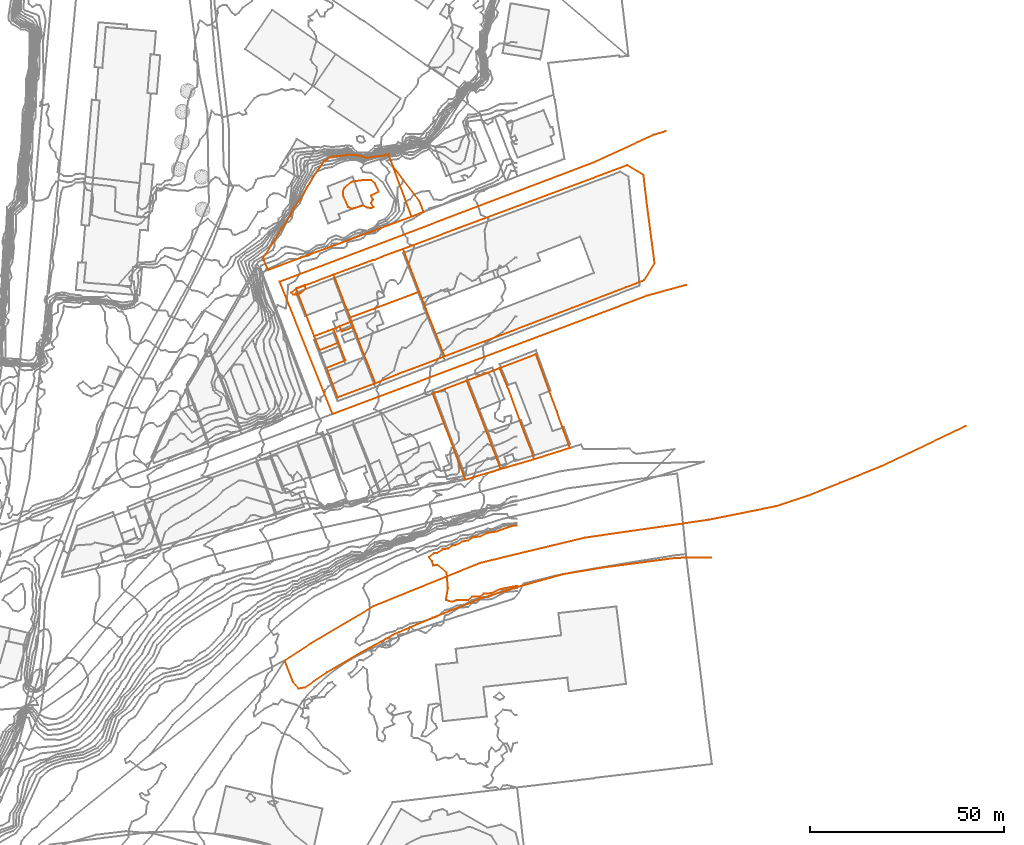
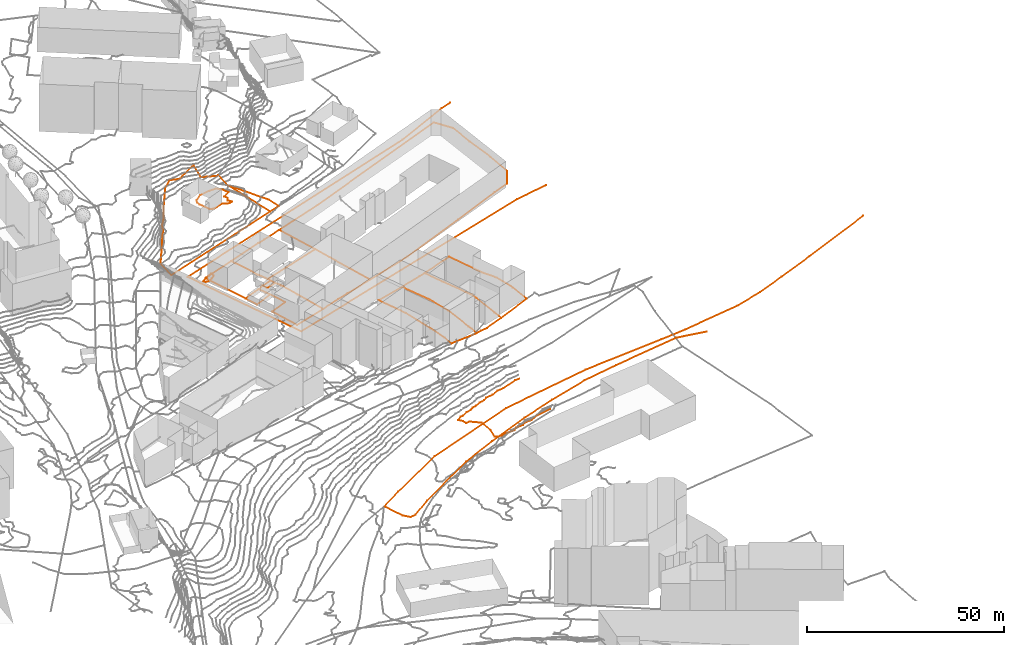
# Not in any storey, part 279 of 419: 19 proxies.
"""IFC2X3 model written with IfcOpenShell, lengths in metres."""

from ifc_helpers import new_model, entity, si_unit, frame, origin_with_axes, place, context, subcontext, project, element, save


model = new_model("IFC2X3")

# Units and contexts
model_context = context("Model", 3, precision=1e-05, world=origin_with_axes())
body_context = subcontext(model_context, "Body", "Model", "MODEL_VIEW")
ifc_project = project(units=[si_unit("AREAUNIT", "SQUARE_METRE"), si_unit("LENGTHUNIT", "METRE")], contexts=[model_context])

# Proxies
proxy_1_placement = place(None, frame((929.1920204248, 676.6976909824, 81.8), z_axis=(0.0, 0.0, 1.0), x_axis=(1.0, 0.0, 0.0)))
element("IfcBuildingElementProxy", 1, at=proxy_1_placement, Name="Route 133", ObjectType="NOTDEFINED", context=body_context, shape_type="GeometricCurveSet", body=[
    entity("IfcGeometricCurveSet", [entity("IfcPolyline", [entity("IfcCartesianPoint", [0.0, 0.0, 0.0]), entity("IfcCartesianPoint", [80.8, 30.4000000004, -5.8]), entity("IfcCartesianPoint", [90.9, 33.2000000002, -6.7])])]),
])
proxy_2_placement = place(None, frame((916.8920204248, 613.2976909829, 70.4), z_axis=(0.0, 0.0, 1.0), x_axis=(1.0, 0.0, 0.0)))
element("IfcBuildingElementProxy", 2, at=proxy_2_placement, Name="Route 273", ObjectType="NOTDEFINED", context=body_context, shape_type="GeometricCurveSet", body=[
    entity("IfcGeometricCurveSet", [entity("IfcPolyline", [entity("IfcCartesianPoint", [0.0, 0.0, 0.0]), entity("IfcCartesianPoint", [2.2, -5.6000000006, -0.2]), entity("IfcCartesianPoint", [3.6, -7.2000000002, -0.2]), entity("IfcCartesianPoint", [5.2, -6.9000000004, -0.2]), entity("IfcCartesianPoint", [10.8999999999, -3.0, -0.2]), entity("IfcCartesianPoint", [19.6, 2.0999999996, -0.2]), entity("IfcCartesianPoint", [27.7999999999, 6.5999999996, 0.1]), entity("IfcCartesianPoint", [38.0, 11.0, 0.2]), entity("IfcCartesianPoint", [50.2999999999, 15.8999999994, 0.2]), entity("IfcCartesianPoint", [60.2, 19.0, 0.4]), entity("IfcCartesianPoint", [71.6, 22.1999999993, 0.5]), entity("IfcCartesianPoint", [81.7, 23.8999999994, 0.6]), entity("IfcCartesianPoint", [100.7, 26.3999999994, 0.9]), entity("IfcCartesianPoint", [109.7, 26.5, -0.4])])]),
])
proxy_3_placement = place(None, frame((916.8920204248, 613.2976909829, 70.4), z_axis=(0.0, 0.0, 1.0), x_axis=(1.0, 0.0, 0.0)))
element("IfcBuildingElementProxy", 3, at=proxy_3_placement, Name="Route 301", ObjectType="NOTDEFINED", context=body_context, shape_type="GeometricCurveSet", body=[
    entity("IfcGeometricCurveSet", [entity("IfcPolyline", [entity("IfcCartesianPoint", [0.0, 0.0, 0.0]), entity("IfcCartesianPoint", [6.7, 4.3999999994, -0.5]), entity("IfcCartesianPoint", [22.8999999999, 14.0, -1.0]), entity("IfcCartesianPoint", [50.2, 25.0999999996, -2.4]), entity("IfcCartesianPoint", [77.2, 31.5999999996, -3.9]), entity("IfcCartesianPoint", [101.5, 35.0999999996, -5.1]), entity("IfcCartesianPoint", [109.0, 36.1999999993, -5.4]), entity("IfcCartesianPoint", [126.3999999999, 39.6999999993, -6.2]), entity("IfcCartesianPoint", [134.6, 42.3999999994, -6.5]), entity("IfcCartesianPoint", [142.7999999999, 45.6999999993, -6.6]), entity("IfcCartesianPoint", [153.5, 50.0, -6.6]), entity("IfcCartesianPoint", [175.1, 60.2999999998, -7.9])])]),
])
proxy_4_placement = place(None, frame((915.5920204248, 710.6976909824, 82.8), z_axis=(0.0, 0.0, 1.0), x_axis=(1.0, 0.0, 0.0)))
element("IfcBuildingElementProxy", 4, at=proxy_4_placement, Name="Route 310", ObjectType="NOTDEFINED", context=body_context, shape_type="GeometricCurveSet", body=[
    entity("IfcGeometricCurveSet", [entity("IfcPolyline", [entity("IfcCartesianPoint", [13.6, -34.0, -1.0]), entity("IfcCartesianPoint", [0.0, 0.0, 0.0]), entity("IfcCartesianPoint", [80.7, 30.7000000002, -4.4]), entity("IfcCartesianPoint", [96.2, 37.7999999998, -4.4]), entity("IfcCartesianPoint", [99.2, 38.7000000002, -4.3])])]),
])
proxy_5_placement = place(None, frame((954.9720204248, 681.9376909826, 79.1991138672), z_axis=(0.0, 0.0, 1.0), x_axis=(1.0, 0.0, 0.0)))
element("IfcBuildingElementProxy", 5, at=proxy_5_placement, Name="Cadastre 3", ObjectType="NOTDEFINED", context=body_context, shape_type="GeometricCurveSet", body=[
    entity("IfcGeometricCurveSet", [entity("IfcPolyline", [entity("IfcCartesianPoint", [8.4, -22.1399999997, -2.8841154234]), entity("IfcCartesianPoint", [7.65, -20.21, -1.996502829]), entity("IfcCartesianPoint", [6.03, -15.8799999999, -1.1645456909]), entity("IfcCartesianPoint", [3.21, -8.4299999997, -0.0244128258]), entity("IfcCartesianPoint", [0.0, 0.0, 0.0]), entity("IfcCartesianPoint", [8.71, 3.3100000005, -0.8916567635]), entity("IfcCartesianPoint", [11.97, -5.0199999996, -0.8931925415]), entity("IfcCartesianPoint", [14.21, -10.79, -1.652414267]), entity("IfcCartesianPoint", [16.5600000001, -17.0, -3.6415137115]), entity("IfcCartesianPoint", [16.9, -17.7599999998, -3.9305306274]), entity("IfcCartesianPoint", [17.4, -19.4100000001, -4.5214151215]), entity("IfcCartesianPoint", [8.4, -22.1399999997, -2.8841154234])])]),
])
proxy_6_placement = place(None, frame((963.6820204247, 685.2476909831, 78.3074571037), z_axis=(0.0, 0.0, 1.0), x_axis=(1.0, 0.0, 0.0)))
element("IfcBuildingElementProxy", 6, at=proxy_6_placement, Name="Cadastre 4", ObjectType="NOTDEFINED", context=body_context, shape_type="GeometricCurveSet", body=[
    entity("IfcGeometricCurveSet", [entity("IfcPolyline", [entity("IfcCartesianPoint", [17.38, -20.1800000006, -3.4330536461]), entity("IfcCartesianPoint", [12.37, -21.6400000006, -3.9002592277]), entity("IfcCartesianPoint", [10.3300000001, -22.2400000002, -3.7142059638]), entity("IfcCartesianPoint", [8.6900000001, -22.7200000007, -3.629758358]), entity("IfcCartesianPoint", [8.1900000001, -21.0700000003, -3.0388738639]), entity("IfcCartesianPoint", [7.8500000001, -20.3100000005, -2.749856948]), entity("IfcCartesianPoint", [5.5, -14.1000000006, -0.7607575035]), entity("IfcCartesianPoint", [3.26, -8.3300000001, -0.001535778]), entity("IfcCartesianPoint", [0.0, 0.0, 0.0]), entity("IfcCartesianPoint", [6.5700000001, 2.4899999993, -0.522307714]), entity("IfcCartesianPoint", [8.4700000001, 3.25, -0.6774192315]), entity("IfcCartesianPoint", [10.7200000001, -2.0800000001, -0.8817682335]), entity("IfcCartesianPoint", [14.01, -11.1100000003, -0.6126592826]), entity("IfcCartesianPoint", [14.5800000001, -12.7200000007, -0.931955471]), entity("IfcCartesianPoint", [16.6900000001, -18.1300000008, -2.787056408]), entity("IfcCartesianPoint", [17.38, -20.1800000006, -3.4330536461])])]),
])
proxy_7_placement = place(None, frame((972.1520204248, 688.4976909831, 77.6300378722), z_axis=(0.0, 0.0, 1.0), x_axis=(1.0, 0.0, 0.0)))
element("IfcBuildingElementProxy", 7, at=proxy_7_placement, Name="Cadastre 6", ObjectType="NOTDEFINED", context=body_context, shape_type="GeometricCurveSet", body=[
    entity("IfcGeometricCurveSet", [entity("IfcPolyline", [entity("IfcCartesianPoint", [18.09, -20.5100000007, -1.8194394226]), entity("IfcCartesianPoint", [8.9099999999, -23.4300000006, -2.7556344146]), entity("IfcCartesianPoint", [8.22, -21.3800000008, -2.1096371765]), entity("IfcCartesianPoint", [6.11, -15.9700000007, -0.2545362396]), entity("IfcCartesianPoint", [5.5399999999, -14.3600000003, 0.0647599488]), entity("IfcCartesianPoint", [2.25, -5.3300000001, -0.204349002]), entity("IfcCartesianPoint", [0.0, 0.0, 0.0]), entity("IfcCartesianPoint", [9.3099999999, 3.5599999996, -0.3530372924]), entity("IfcCartesianPoint", [13.1, -6.8000000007, -0.3470384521]), entity("IfcCartesianPoint", [14.74, -11.1500000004, 0.1789598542]), entity("IfcCartesianPoint", [16.49, -16.2400000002, -0.3476365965]), entity("IfcCartesianPoint", [18.09, -20.5100000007, -1.8194394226])])]),
])
proxy_8_placement = place(None, frame((947.3420204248, 719.1376909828, 81.1068002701), z_axis=(0.0, 0.0, 1.0), x_axis=(1.0, 0.0, 0.0)))
element("IfcBuildingElementProxy", 8, at=proxy_8_placement, Name="Cadastre 7", ObjectType="NOTDEFINED", context=body_context, shape_type="GeometricCurveSet", body=[
    entity("IfcGeometricCurveSet", [entity("IfcPolyline", [entity("IfcCartesianPoint", [0.0, 0.0, 0.0]), entity("IfcCartesianPoint", [14.29, 5.3899999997, -0.5697215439]), entity("IfcCartesianPoint", [57.63, 21.5300000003, 0.0131982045]), entity("IfcCartesianPoint", [61.8200000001, 19.0, -1.6587994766]), entity("IfcCartesianPoint", [62.63, 11.8999999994, -1.8183981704]), entity("IfcCartesianPoint", [63.77, 3.1899999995, -1.7568017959]), entity("IfcCartesianPoint", [64.66, -3.5899999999, -2.2632989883]), entity("IfcCartesianPoint", [61.98, -8.0600000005, -2.410001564]), entity("IfcCartesianPoint", [57.3200000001, -9.8399999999, -2.44379673]), entity("IfcCartesianPoint", [43.6, -15.1200000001, -2.8699991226]), entity("IfcCartesianPoint", [24.75, -22.2999999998, -3.3528001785]), entity("IfcCartesianPoint", [10.71, -27.6100000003, -2.3924168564]), entity("IfcCartesianPoint", [5.84, -15.2999999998, -1.22361913]), entity("IfcCartesianPoint", [4.1800000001, -10.9699999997, -0.7866741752]), entity("IfcCartesianPoint", [0.0, 0.0, 0.0])])]),
])
proxy_9_placement = place(None, frame((944.7020204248, 740.4676909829, 82.8352164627), z_axis=(0.0, 0.0, 1.0), x_axis=(1.0, 0.0, 0.0)))
element("IfcBuildingElementProxy", 9, at=proxy_9_placement, Name="Cadastre 12", ObjectType="NOTDEFINED", context=body_context, shape_type="GeometricCurveSet", body=[
    entity("IfcGeometricCurveSet", [entity("IfcPolyline", [entity("IfcCartesianPoint", [0.0, 0.0, 0.0]), entity("IfcCartesianPoint", [6.75, -8.8399999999, -1.3903288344]), entity("IfcCartesianPoint", [7.91, -11.8100000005, -1.9650757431]), entity("IfcCartesianPoint", [4.8, -13.0099999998, -1.8274100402]), entity("IfcCartesianPoint", [0.0, 0.0, 0.0])])]),
])
proxy_10_placement = place(None, frame((911.2520204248, 716.8576909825, 84.8999478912), z_axis=(0.0, 0.0, 1.0), x_axis=(1.0, 0.0, 0.0)))
element("IfcBuildingElementProxy", 10, at=proxy_10_placement, Name="Cadastre 14", ObjectType="NOTDEFINED", context=body_context, shape_type="GeometricCurveSet", body=[
    entity("IfcGeometricCurveSet", [entity("IfcPolyline", [entity("IfcCartesianPoint", [32.3099999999, 26.6900000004, -0.2363954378]), entity("IfcCartesianPoint", [33.45, 23.6100000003, -2.0647314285]), entity("IfcCartesianPoint", [38.25, 10.6000000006, -3.8921414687]), entity("IfcCartesianPoint", [1.39, -3.1099999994, -2.3876718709]), entity("IfcCartesianPoint", [0.0, 0.0, 0.0]), entity("IfcCartesianPoint", [0.67, 0.9100000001, 0.4750005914]), entity("IfcCartesianPoint", [2.53, 3.75, 1.0861271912]), entity("IfcCartesianPoint", [4.85, 7.46, 1.0187405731]), entity("IfcCartesianPoint", [6.96, 10.71, 1.2159590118]), entity("IfcCartesianPoint", [7.9299999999, 12.8399999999, 1.1809325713]), entity("IfcCartesianPoint", [9.3199999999, 14.6600000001, 0.8960285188]), entity("IfcCartesianPoint", [11.3199999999, 18.0600000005, 0.8738754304]), entity("IfcCartesianPoint", [14.14, 22.6100000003, 1.0116130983]), entity("IfcCartesianPoint", [14.79, 23.3900000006, 1.220702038]), entity("IfcCartesianPoint", [15.62, 24.7800000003, 2.488788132]), entity("IfcCartesianPoint", [17.6899999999, 26.0099999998, 3.6207767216]), entity("IfcCartesianPoint", [19.38, 26.1500000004, 3.189064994]), entity("IfcCartesianPoint", [20.98, 26.3399999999, 2.7162121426]), entity("IfcCartesianPoint", [21.75, 26.5300000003, 3.2830872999]), entity("IfcCartesianPoint", [24.9399999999, 26.2999999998, 5.6435740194]), entity("IfcCartesianPoint", [26.65, 25.71, 1.5954165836]), entity("IfcCartesianPoint", [31.64, 26.4000000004, -0.1541902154]), entity("IfcCartesianPoint", [32.3099999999, 26.6900000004, -0.2363954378])])]),
])
proxy_11_placement = place(None, frame((933.7520204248, 701.4976909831, 81.3912408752), z_axis=(0.0, 0.0, 1.0), x_axis=(1.0, 0.0, 0.0)))
element("IfcBuildingElementProxy", 11, at=proxy_11_placement, Name="Cadastre 15", ObjectType="NOTDEFINED", context=body_context, shape_type="GeometricCurveSet", body=[
    entity("IfcGeometricCurveSet", [entity("IfcPolyline", [entity("IfcCartesianPoint", [17.77, 6.6699999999, -1.0711147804]), entity("IfcCartesianPoint", [19.4299999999, 2.3399999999, -1.5080597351]), entity("IfcCartesianPoint", [24.2999999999, -9.9700000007, -2.6768574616]), entity("IfcCartesianPoint", [15.74, -13.2300000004, -1.9456891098]), entity("IfcCartesianPoint", [12.23, -14.5200000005, -1.7068809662]), entity("IfcCartesianPoint", [6.46, -16.8700000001, -1.3459144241]), entity("IfcCartesianPoint", [3.4299999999, -9.2100000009, -0.4163885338]), entity("IfcCartesianPoint", [1.75, -4.7200000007, -0.0053234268]), entity("IfcCartesianPoint", [1.5699999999, -4.2200000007, 0.0186073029]), entity("IfcCartesianPoint", [0.8099999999, -2.4200000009, -0.0785488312]), entity("IfcCartesianPoint", [0.3099999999, -1.0100000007, -0.0237164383]), entity("IfcCartesianPoint", [0.0, 0.0, 0.0]), entity("IfcCartesianPoint", [7.3099999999, 2.7199999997, -0.4797083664]), entity("IfcCartesianPoint", [17.77, 6.6699999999, -1.0711147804])])]),
])
proxy_12_placement = place(None, frame((929.4720204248, 712.5476909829, 81.6937399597), z_axis=(0.0, 0.0, 1.0), x_axis=(1.0, 0.0, 0.0)))
element("IfcBuildingElementProxy", 12, at=proxy_12_placement, Name="Cadastre 16", ObjectType="NOTDEFINED", context=body_context, shape_type="GeometricCurveSet", body=[
    entity("IfcGeometricCurveSet", [entity("IfcPolyline", [entity("IfcCartesianPoint", [17.87, 6.5899999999, -0.5869396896]), entity("IfcCartesianPoint", [22.05, -4.3799999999, -1.3736138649]), entity("IfcCartesianPoint", [11.59, -8.3300000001, -0.7822074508]), entity("IfcCartesianPoint", [4.28, -11.0499999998, -0.3024990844]), entity("IfcCartesianPoint", [3.26, -8.3900000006, -0.3411408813]), entity("IfcCartesianPoint", [2.99, -7.9900000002, -0.3308409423]), entity("IfcCartesianPoint", [2.3100000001, -6.0, -0.2088564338]), entity("IfcCartesianPoint", [0.0, 0.0, 0.0]), entity("IfcCartesianPoint", [10.0, 3.71, -0.177307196]), entity("IfcCartesianPoint", [10.53, 3.7799999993, -0.2597235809]), entity("IfcCartesianPoint", [12.27, 4.5599999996, -0.3824399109]), entity("IfcCartesianPoint", [17.87, 6.5899999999, -0.5869396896])])]),
])
proxy_13_placement = place(None, frame((930.9920204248, 699.2976909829, 81.5523997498), z_axis=(0.0, 0.0, 1.0), x_axis=(1.0, 0.0, 0.0)))
element("IfcBuildingElementProxy", 13, at=proxy_13_placement, Name="Cadastre 17", ObjectType="NOTDEFINED", context=body_context, shape_type="GeometricCurveSet", body=[
    entity("IfcGeometricCurveSet", [entity("IfcPolyline", [entity("IfcCartesianPoint", [3.0699999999, 1.1899999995, -0.1848753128]), entity("IfcCartesianPoint", [3.5699999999, -0.2200000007, -0.2397077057]), entity("IfcCartesianPoint", [0.58, -1.4000000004, -0.0573007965]), entity("IfcCartesianPoint", [0.0, 0.0, 0.0]), entity("IfcCartesianPoint", [3.0699999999, 1.1899999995, -0.1848753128])])]),
])
proxy_14_placement = place(None, frame((927.6120204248, 688.5676909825, 81.2638315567), z_axis=(0.0, 0.0, 1.0), x_axis=(1.0, 0.0, 0.0)))
element("IfcBuildingElementProxy", 14, at=proxy_14_placement, Name="Cadastre 18", ObjectType="NOTDEFINED", context=body_context, shape_type="GeometricCurveSet", body=[
    entity("IfcGeometricCurveSet", [entity("IfcPolyline", [entity("IfcCartesianPoint", [6.95, 10.5099999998, 0.0488604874]), entity("IfcCartesianPoint", [7.71, 8.71, 0.1460166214]), entity("IfcCartesianPoint", [7.89, 8.21, 0.1220858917]), entity("IfcCartesianPoint", [9.5699999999, 3.7199999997, -0.2889792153]), entity("IfcCartesianPoint", [12.6, -3.9399999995, -1.2185051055]), entity("IfcCartesianPoint", [2.91, -7.5899999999, -0.5376387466]), entity("IfcCartesianPoint", [0.0, 0.0, 0.0]), entity("IfcCartesianPoint", [4.88, 1.9400000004, 0.0587464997]), entity("IfcCartesianPoint", [3.17, 6.5099999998, 0.2359858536]), entity("IfcCartesianPoint", [2.64, 7.9500000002, 0.2105837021]), entity("IfcCartesianPoint", [1.8100000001, 10.0099999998, 0.2166203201]), entity("IfcCartesianPoint", [2.77, 10.3500000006, 0.2845375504]), entity("IfcCartesianPoint", [3.38, 10.7300000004, 0.2885681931]), entity("IfcCartesianPoint", [3.96, 9.3300000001, 0.2312673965]), entity("IfcCartesianPoint", [6.95, 10.5099999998, 0.0488604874])])]),
])
proxy_15_placement = place(None, frame((924.4820204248, 696.7076909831, 81.4817082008), z_axis=(0.0, 0.0, 1.0), x_axis=(1.0, 0.0, 0.0)))
element("IfcBuildingElementProxy", 15, at=proxy_15_placement, Name="Cadastre 37", ObjectType="NOTDEFINED", context=body_context, shape_type="GeometricCurveSet", body=[
    entity("IfcGeometricCurveSet", [entity("IfcPolyline", [entity("IfcCartesianPoint", [6.3, -1.6300000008, 0.0181092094]), entity("IfcCartesianPoint", [1.38, -3.5900000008, -0.1319395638]), entity("IfcCartesianPoint", [0.0, 0.0, 0.0]), entity("IfcCartesianPoint", [3.6800000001, 1.4099999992, 0.0391766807]), entity("IfcCartesianPoint", [4.9400000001, 1.8699999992, -0.001256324]), entity("IfcCartesianPoint", [5.77, -0.1900000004, -0.0072929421]), entity("IfcCartesianPoint", [6.3, -1.6300000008, 0.0181092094])])]),
])
proxy_16_placement = place(None, frame((919.8220204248, 708.9076909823, 82.0151453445), z_axis=(0.0, 0.0, 1.0), x_axis=(1.0, 0.0, 0.0)))
element("IfcBuildingElementProxy", 16, at=proxy_16_placement, Name="Cadastre 39", ObjectType="NOTDEFINED", context=body_context, shape_type="GeometricCurveSet", body=[
    entity("IfcGeometricCurveSet", [entity("IfcPolyline", [entity("IfcCartesianPoint", [13.9300000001, -7.4099999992, -0.6239044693]), entity("IfcCartesianPoint", [14.24, -8.4199999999, -0.6476209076]), entity("IfcCartesianPoint", [11.17, -9.6099999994, -0.4627455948]), entity("IfcCartesianPoint", [10.5600000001, -9.9899999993, -0.4667762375]), entity("IfcCartesianPoint", [9.6000000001, -10.3300000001, -0.5346934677]), entity("IfcCartesianPoint", [8.3400000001, -10.79, -0.494260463]), entity("IfcCartesianPoint", [4.66, -12.1999999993, -0.5334371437]), entity("IfcCartesianPoint", [2.3200000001, -6.0199999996, -0.2729288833]), entity("IfcCartesianPoint", [0.0, 0.0, 0.0]), entity("IfcCartesianPoint", [9.65, 3.6400000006, -0.3214053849]), entity("IfcCartesianPoint", [11.9600000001, -2.3599999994, -0.5302618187]), entity("IfcCartesianPoint", [12.64, -4.3499999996, -0.6522463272]), entity("IfcCartesianPoint", [12.91, -4.75, -0.6625462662]), entity("IfcCartesianPoint", [13.9300000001, -7.4099999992, -0.6239044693])])]),
])
proxy_17_placement = place(None, frame((931.8420442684, 733.8976909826, 86.0), z_axis=(0.0, 0.0, 1.0), x_axis=(1.0, 0.0, 0.0)))
element("IfcBuildingElementProxy", 17, at=proxy_17_placement, Name="Contour 86.0 m", ObjectType="NOTDEFINED", context=body_context, shape_type="GeometricCurveSet", body=[
    entity("IfcGeometricCurveSet", [entity("IfcPolyline", [entity("IfcCartesianPoint", [7.9165580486, -4.0, 0.0]), entity("IfcCartesianPoint", [7.2499761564, -4.2499761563, 0.0]), entity("IfcCartesianPoint", [6.2499761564, -4.1363573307, 0.0]), entity("IfcCartesianPoint", [5.2499761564, -3.5789431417, 0.0]), entity("IfcCartesianPoint", [2.2499761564, -4.4117673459, 0.0]), entity("IfcCartesianPoint", [1.3749999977, -4.0, 0.0]), entity("IfcCartesianPoint", [0.0832882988, -1.0, 0.0]), entity("IfcCartesianPoint", [0.0, 0.0, 0.0]), entity("IfcCartesianPoint", [0.3928644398, 1.0, 0.0]), entity("IfcCartesianPoint", [2.2499761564, 2.5000124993, 0.0]), entity("IfcCartesianPoint", [5.2498761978, 3.0, 0.0]), entity("IfcCartesianPoint", [7.2499761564, 3.0000066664, 0.0]), entity("IfcCartesianPoint", [8.2499961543, 2.0, 0.0]), entity("IfcCartesianPoint", [9.249985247, 0.0, 0.0]), entity("IfcCartesianPoint", [7.2500261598, -1.0, 0.0]), entity("IfcCartesianPoint", [7.7500261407, -2.0, 0.0]), entity("IfcCartesianPoint", [7.250076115, -3.0, 0.0]), entity("IfcCartesianPoint", [7.9165580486, -4.0, 0.0])])]),
])
proxy_18_placement = place(None, frame((918.5920079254, 707.8976909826, 82.0), z_axis=(0.0, 0.0, 1.0), x_axis=(1.0, 0.0, 0.0)))
element("IfcBuildingElementProxy", 18, at=proxy_18_placement, Name="Contour 82.0 m", ObjectType="NOTDEFINED", context=body_context, shape_type="GeometricCurveSet", body=[
    entity("IfcGeometricCurveSet", [entity("IfcPolyline", [entity("IfcCartesianPoint", [2.5000374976, 0.0, 0.0]), entity("IfcCartesianPoint", [1.5000124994, -0.5000499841, 0.0]), entity("IfcCartesianPoint", [0.5000124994, -0.4444350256, 0.0]), entity("IfcCartesianPoint", [0.0, 0.0, 0.0]), entity("IfcCartesianPoint", [1.5000124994, 1.2221939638, 0.0]), entity("IfcCartesianPoint", [3.5000324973, 2.0, 0.0]), entity("IfcCartesianPoint", [3.6429007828, 1.0, 0.0]), entity("IfcCartesianPoint", [2.5000374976, 0.0, 0.0])])]),
])
proxy_19_placement = place(None, frame((953.9669965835, 639.8976909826, 68.0), z_axis=(0.0, 0.0, 1.0), x_axis=(1.0, 0.0, 0.0)))
element("IfcBuildingElementProxy", 19, at=proxy_19_placement, Name="Contour 68.0 m", ObjectType="NOTDEFINED", context=body_context, shape_type="GeometricCurveSet", body=[
    entity("IfcGeometricCurveSet", [entity("IfcPolyline", [entity("IfcCartesianPoint", [22.6250238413, 8.1269359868, 0.0]), entity("IfcCartesianPoint", [21.3365617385, 8.0, 0.0]), entity("IfcCartesianPoint", [17.1250238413, 6.5301200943, 0.0]), entity("IfcCartesianPoint", [15.1250238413, 6.2383188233, 0.0]), entity("IfcCartesianPoint", [13.1250238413, 5.3414620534, 0.0]), entity("IfcCartesianPoint", [11.1250262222, 5.0, 0.0]), entity("IfcCartesianPoint", [10.1250238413, 4.3046347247, 0.0]), entity("IfcCartesianPoint", [8.5505550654, 4.0, 0.0]), entity("IfcCartesianPoint", [7.1250238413, 3.1857156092, 0.0]), entity("IfcCartesianPoint", [5.9608433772, 3.0, 0.0]), entity("IfcCartesianPoint", [5.1250238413, 2.2727272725, 0.0]), entity("IfcCartesianPoint", [3.5795598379, 2.0, 0.0]), entity("IfcCartesianPoint", [2.1250238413, 1.0967710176, 0.0]), entity("IfcCartesianPoint", [1.306823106, 1.0, 0.0]), entity("IfcCartesianPoint", [0.0, 0.0, 0.0]), entity("IfcCartesianPoint", [0.7916057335, -1.0, 0.0]), entity("IfcCartesianPoint", [1.1250238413, -2.1666878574, 0.0]), entity("IfcCartesianPoint", [2.1250238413, -1.9999750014, 0.0]), entity("IfcCartesianPoint", [4.5694588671, -4.0, 0.0]), entity("IfcCartesianPoint", [4.8749761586, -8.0, 0.0]), entity("IfcCartesianPoint", [4.3750715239, -11.0, 0.0]), entity("IfcCartesianPoint", [5.1250238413, -11.333333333, 0.0]), entity("IfcCartesianPoint", [6.1250238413, -11.4666598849, 0.0]), entity("IfcCartesianPoint", [7.1250238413, -11.0833200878, 0.0]), entity("IfcCartesianPoint", [10.1250238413, -11.0155013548, 0.0]), entity("IfcCartesianPoint", [11.1250238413, -10.2118643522, 0.0]), entity("IfcCartesianPoint", [13.1250238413, -10.092919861, 0.0]), entity("IfcCartesianPoint", [14.1250238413, -9.4333319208, 0.0]), entity("IfcCartesianPoint", [16.1250238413, -9.2727277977, 0.0]), entity("IfcCartesianPoint", [18.1250238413, -8.2916664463, 0.0]), entity("IfcCartesianPoint", [22.6250238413, -7.3947365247, 0.0])])]),
])

save(model, "model.ifc")
